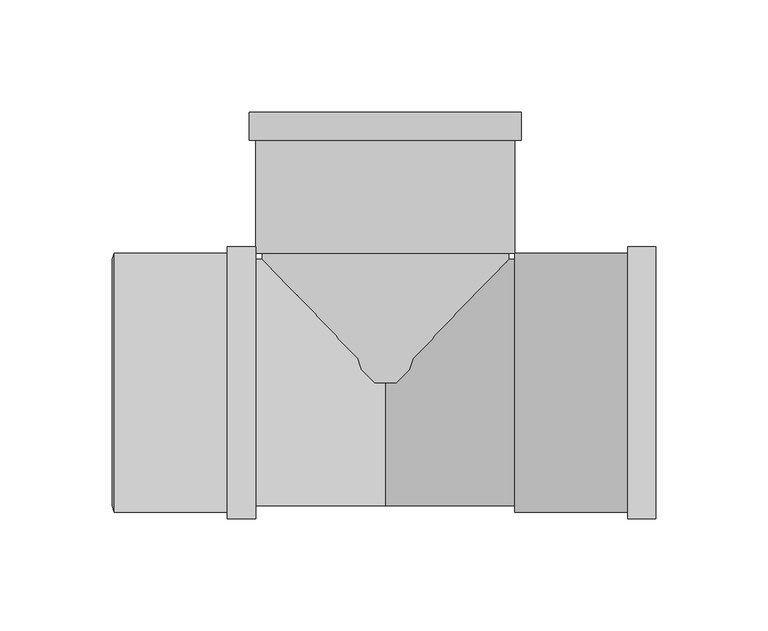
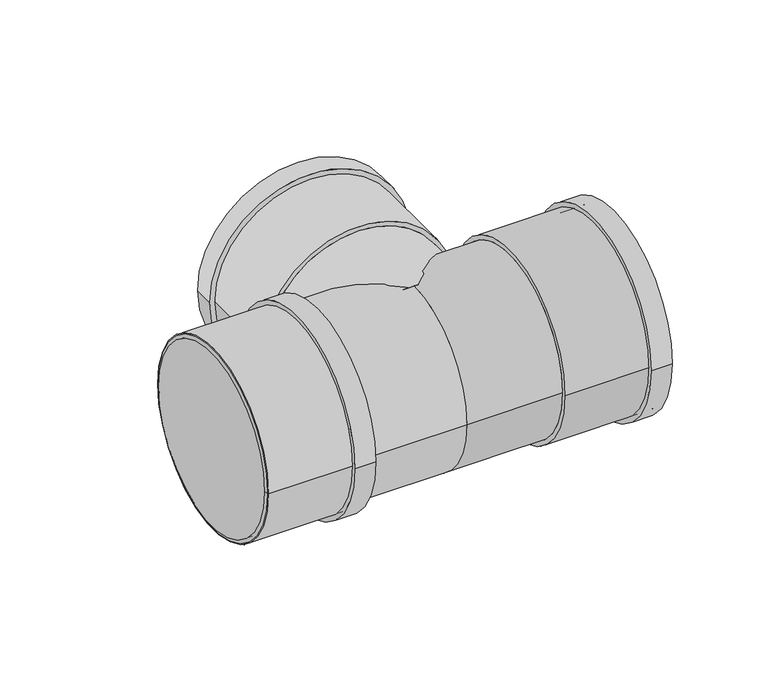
"""IFC4 building model written with IfcOpenShell, lengths in millimetres: pipe fitting geometry, Superdrain HTEA Branch : Superdrain HTEA Branch."""

from ifc_helpers import new_model, si_unit, point, frame, origin, origin_2d, place, context, project, spatial, polyline, circle_curve, trimmed, segment, composite_curve, outline, extrude, source, transform, mapped, element, save
from ifc_brep_helpers import plane_surface, revolved_surface, advanced_brep


def pipe_fitting_e676a374(model_context):
    return source(origin(), model_context, "Body", "SolidModel", [
        extrude(outline(composite_curve([segment(trimmed(circle_curve(origin_2d(), 57.75), [point((57.75, 0.0))], [point((-57.75, 0.0))], False, "CARTESIAN"), True, "CONTINUOUS"), segment(trimmed(circle_curve(origin_2d(), 57.75), [point((-57.75, 0.0))], [point((57.75, 0.0))], False, "CARTESIAN"), True, "CONTINUOUS")], self_intersect=False), holes=[composite_curve([segment(trimmed(circle_curve(origin_2d(), 55.0), [point((55.0, 0.0))], [point((-55.0, 0.0))], True, "CARTESIAN"), True, "CONTINUOUS"), segment(trimmed(circle_curve(origin_2d(), 55.0), [point((-55.0, 0.0))], [point((55.0, 0.0))], True, "CARTESIAN"), True, "CONTINUOUS")], self_intersect=False)]), frame((-120.9, 0.0, 0.0), z_axis=(1.0, 0.0, 0.0), x_axis=(0.0, 1.0, 0.0)), (0.0, 0.0, 1.0), 63.0),
        extrude(outline(composite_curve([segment(trimmed(circle_curve(origin_2d(), 60.6375), [point((60.6375, 0.0))], [point((-60.6375, 0.0))], False, "CARTESIAN"), True, "CONTINUOUS"), segment(trimmed(circle_curve(origin_2d(), 60.6375), [point((-60.6375, 0.0))], [point((60.6375, 0.0))], False, "CARTESIAN"), True, "CONTINUOUS")], self_intersect=False), holes=[composite_curve([segment(trimmed(circle_curve(origin_2d(), 55.0), [point((55.0, 0.0))], [point((-55.0, 0.0))], True, "CARTESIAN"), True, "CONTINUOUS"), segment(trimmed(circle_curve(origin_2d(), 55.0), [point((-55.0, 0.0))], [point((55.0, 0.0))], True, "CARTESIAN"), True, "CONTINUOUS")], self_intersect=False)]), frame((-70.5, 0.0, 0.0), z_axis=(1.0, 0.0, 0.0), x_axis=(0.0, 1.0, 0.0)), (0.0, 0.0, 1.0), 12.6),
        advanced_brep(
        [(-121.9, 55.0, 0.0), (-121.9, -55.0, 0.0), (-120.9, 57.75, 0.0), (-120.9, -57.75, 0.0)],
        [
            (0, 1, circle_curve(frame((-121.9, 0.0, 0.0), z_axis=(-1.0, 0.0, 0.0), x_axis=(0.0, 1.0000000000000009, 0.0)), 55.0)),
            (1, 0, circle_curve(frame((-121.9, 0.0, 0.0), z_axis=(-1.0, 0.0, 0.0), x_axis=(0.0, -1.0000000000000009, 0.0)), 55.0)),
            (2, 3, circle_curve(frame((-120.9, 0.0, 0.0), z_axis=(1.0, 0.0, 0.0), x_axis=(0.0, -1.0000000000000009, 0.0)), 57.75)),
            (3, 2, circle_curve(frame((-120.9, 0.0, 0.0), z_axis=(1.0, 0.0, 0.0), x_axis=(0.0, 1.0000000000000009, 0.0)), 57.75)),
            (3, 1),
            (0, 2),
        ],
        [
            plane_surface(frame((-121.9, 0.0, 0.0), z_axis=(-1.0, 0.0, 0.0), x_axis=(0.0, 0.0, -1.0))),
            plane_surface(frame((-120.9, 0.0, 0.0), z_axis=(1.0, 0.0, 0.0), x_axis=(0.0, 0.0, -1.0))),
            revolved_surface(polyline([(-121.9, 54.99999999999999, 0.0), (-120.9, 57.75, 0.0)]), (-141.9, 0.0, 0.0), (1.0000000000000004, 0.0, 0.0)),
            revolved_surface(polyline([(-121.9, -54.99999999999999, 0.0), (-120.9, -57.75, 0.0)]), (-141.9, 0.0, 0.0), (1.0000000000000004, 0.0, 0.0)),
        ],
        [
            (0, [[1, 2]]),
            (1, [[3, 4]]),
            (2, [[-4, 5, -1, 6]]),
            (3, [[-3, -6, -2, -5]]),
        ],
    ),
        extrude(outline(composite_curve([segment(trimmed(circle_curve(origin_2d(), 57.75), [point((-57.75, 0.0))], [point((57.75, 0.0))], False, "CARTESIAN"), True, "CONTINUOUS"), segment(trimmed(circle_curve(origin_2d(), 57.75), [point((57.75, 0.0))], [point((-57.75, 0.0))], False, "CARTESIAN"), True, "CONTINUOUS")], self_intersect=False), holes=[composite_curve([segment(trimmed(circle_curve(origin_2d(), 55.0), [point((55.0, 0.0))], [point((-55.0, 0.0))], True, "CARTESIAN"), True, "CONTINUOUS"), segment(trimmed(circle_curve(origin_2d(), 55.0), [point((-55.0, 0.0))], [point((55.0, 0.0))], True, "CARTESIAN"), True, "CONTINUOUS")], self_intersect=False)]), frame((57.6, 0.0, 0.0), z_axis=(1.0, 0.0, 0.0), x_axis=(0.0, 1.0, 0.0)), (0.0, 0.0, 1.0), 63.0),
        extrude(outline(composite_curve([segment(trimmed(circle_curve(origin_2d(), 60.6375), [point((60.6375, 0.0))], [point((-60.6375, 0.0))], False, "CARTESIAN"), True, "CONTINUOUS"), segment(trimmed(circle_curve(origin_2d(), 60.6375), [point((-60.6375, 0.0))], [point((60.6375, 0.0))], False, "CARTESIAN"), True, "CONTINUOUS")], self_intersect=False), holes=[composite_curve([segment(trimmed(circle_curve(origin_2d(), 55.0), [point((55.0, 0.0))], [point((-55.0, 0.0))], True, "CARTESIAN"), True, "CONTINUOUS"), segment(trimmed(circle_curve(origin_2d(), 55.0), [point((-55.0, 0.0))], [point((55.0, 0.0))], True, "CARTESIAN"), True, "CONTINUOUS")], self_intersect=False)]), frame((108.0, 0.0, 0.0), z_axis=(1.0, 0.0, 0.0), x_axis=(0.0, 1.0, 0.0)), (0.0, 0.0, 1.0), 12.6),
        extrude(outline(composite_curve([segment(trimmed(circle_curve(origin_2d(), 55.0), [point((0.0, 55.0))], [point((0.0, -55.0))], False, "CARTESIAN"), True, "CONTINUOUS"), segment(trimmed(circle_curve(origin_2d(), 55.0), [point((0.0, -55.0))], [point((0.0, 55.0))], False, "CARTESIAN"), True, "CONTINUOUS")], self_intersect=False)), frame((0.0, 0.0, 0.0), z_axis=(0.0, 1.0, 0.0), x_axis=(0.0, 0.0, 1.0)), (0.0, 0.0, 1.0), 57.6),
        extrude(outline(composite_curve([segment(trimmed(circle_curve(origin_2d(), 55.0), [point((55.0, 0.0))], [point((-55.0, 0.0))], False, "CARTESIAN"), True, "CONTINUOUS"), segment(trimmed(circle_curve(origin_2d(), 55.0), [point((-55.0, 0.0))], [point((55.0, 0.0))], False, "CARTESIAN"), True, "CONTINUOUS")], self_intersect=False)), frame((-120.9, 0.0, 0.0), z_axis=(1.0, 0.0, 0.0), x_axis=(0.0, 1.0, 0.0)), (0.0, 0.0, 1.0), 120.9),
        extrude(outline(composite_curve([segment(trimmed(circle_curve(origin_2d(), 55.0), [point((-55.0, 0.0))], [point((55.0, 0.0))], False, "CARTESIAN"), True, "CONTINUOUS"), segment(trimmed(circle_curve(origin_2d(), 55.0), [point((55.0, 0.0))], [point((-55.0, 0.0))], False, "CARTESIAN"), True, "CONTINUOUS")], self_intersect=False)), frame((0.0, 0.0, 0.0), z_axis=(1.0, 0.0, 0.0), x_axis=(0.0, 1.0, 0.0)), (0.0, 0.0, 1.0), 57.6),
        extrude(outline(composite_curve([segment(trimmed(circle_curve(origin_2d(), 60.6375), [point((0.0, 60.6375))], [point((0.0, -60.6375))], False, "CARTESIAN"), True, "CONTINUOUS"), segment(trimmed(circle_curve(origin_2d(), 60.6375), [point((0.0, -60.6375))], [point((0.0, 60.6375))], False, "CARTESIAN"), True, "CONTINUOUS")], self_intersect=False), holes=[composite_curve([segment(trimmed(circle_curve(origin_2d(), 55.0), [point((0.0, 55.0))], [point((0.0, -55.0))], True, "CARTESIAN"), True, "CONTINUOUS"), segment(trimmed(circle_curve(origin_2d(), 55.0), [point((0.0, -55.0))], [point((0.0, 55.0))], True, "CARTESIAN"), True, "CONTINUOUS")], self_intersect=False)]), frame((0.0, 108.0, 0.0), z_axis=(0.0, 1.0, 0.0), x_axis=(0.0, 0.0, 1.0)), (0.0, 0.0, 1.0), 12.6),
        extrude(outline(composite_curve([segment(trimmed(circle_curve(origin_2d(), 57.75), [point((0.0, 57.75))], [point((0.0, -57.75))], False, "CARTESIAN"), True, "CONTINUOUS"), segment(trimmed(circle_curve(origin_2d(), 57.75), [point((0.0, -57.75))], [point((0.0, 57.75))], False, "CARTESIAN"), True, "CONTINUOUS")], self_intersect=False), holes=[composite_curve([segment(trimmed(circle_curve(origin_2d(), 55.0), [point((0.0, 55.0))], [point((0.0, -55.0))], True, "CARTESIAN"), True, "CONTINUOUS"), segment(trimmed(circle_curve(origin_2d(), 55.0), [point((0.0, -55.0))], [point((0.0, 55.0))], True, "CARTESIAN"), True, "CONTINUOUS")], self_intersect=False)]), frame((0.0, 57.6, 0.0), z_axis=(0.0, 1.0, 0.0), x_axis=(0.0, 0.0, 1.0)), (0.0, 0.0, 1.0), 63.0),
    ])


if __name__ == "__main__":
    model = new_model("IFC4")
    model_context = context("Model", 3, world=origin())
    ifc_project = project(units=[si_unit("LENGTHUNIT", "METRE", prefix="MILLI")], contexts=[model_context])
    site = spatial("IfcSite", under=ifc_project)
    building = spatial("IfcBuilding", under=site)
    placement = place(None, origin())
    pipe_fitting_shape = pipe_fitting_e676a374(model_context)
    element("IfcPipeFitting", 1, ObjectType="Superdrain HTEA Branch : Superdrain HTEA Branch", at=placement, inside=building, context=model_context, shape_type="MappedRepresentation", body=[
        mapped(pipe_fitting_shape, transform((0.0, 0.0, 0.0), x_axis=(1.0, 0.0, 0.0), y_axis=(0.0, 1.0, 0.0), z_axis=(0.0, 0.0, 1.0))),
    ])
    save(model, "model.ifc")
